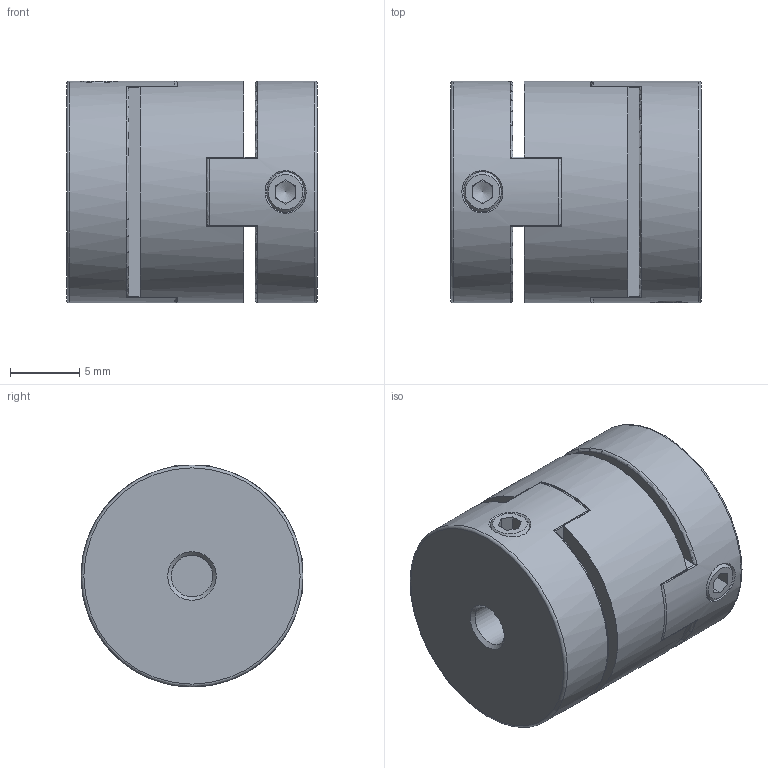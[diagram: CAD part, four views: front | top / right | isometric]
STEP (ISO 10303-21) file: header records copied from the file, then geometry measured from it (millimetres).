
FILE_DESCRIPTION( ( 'Unknown' ), '1' );
FILE_NAME( 'F:/JAKOB-STEP+IGES-Dateien/STEP-Dateien/MOH/MOH 16.stp', 'Unknown', ( 'Unknown' ), ( 'Unknown' ), 'PSStep 10.1', 'Unknown', ' ' );
FILE_SCHEMA( ( 'AUTOMOTIVE_DESIGN { 1 0 10303 214 1 1 1 1 }' ) );
Length unit declared in the file: millimetre
Products named in the file (1): M0505915-oa0
Bounding box: 18.1 x 16 x 16 mm (x, y, z)
Volume: 3299.6 mm3; surface area: 2041.9 mm2
Topology: 1 solids, 1 shells, 99 faces, 262 edges, 153 vertices
Faces by surface type: plane 50, cylinder 19, cone 10, bspline 10, torus 10
Full cylindrical faces by diameter (mm): 2.459 x2, 3 x2, 16 x3
Entity records: 3938 total; most frequent: CARTESIAN_POINT 1038, ORIENTED_EDGE 416, DIRECTION 412, EDGE_CURVE 208, AXIS2_PLACEMENT_3D 152, VERTEX_POINT 134, EDGE_LOOP 128, FACE_OUTER_BOUND 110
